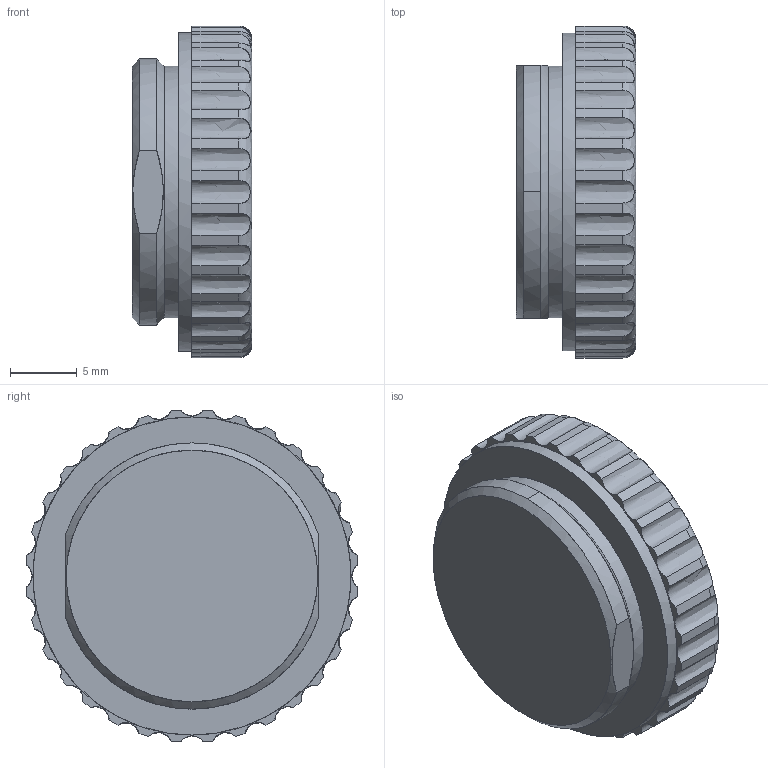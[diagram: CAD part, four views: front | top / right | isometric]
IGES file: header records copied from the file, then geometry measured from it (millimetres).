
Start section: C
Global section: file name: ZLENS-OCS.9MM_PL.igs; native system: By Siemens PLM Incorporated; preprocessor: XPlus GENERIC/IGES 19.0.9; author: Author; organization: Title; date: 20201215.165552; units: millimetre
Bounding box: 9 x 24.94 x 24.94 mm (x, y, z)
Surface area: 1632 mm2 (no closed solid volume)
Topology: 0 solids, 0 shells, 78 faces, 452 edges, 452 vertices
Faces by surface type: bspline 78
